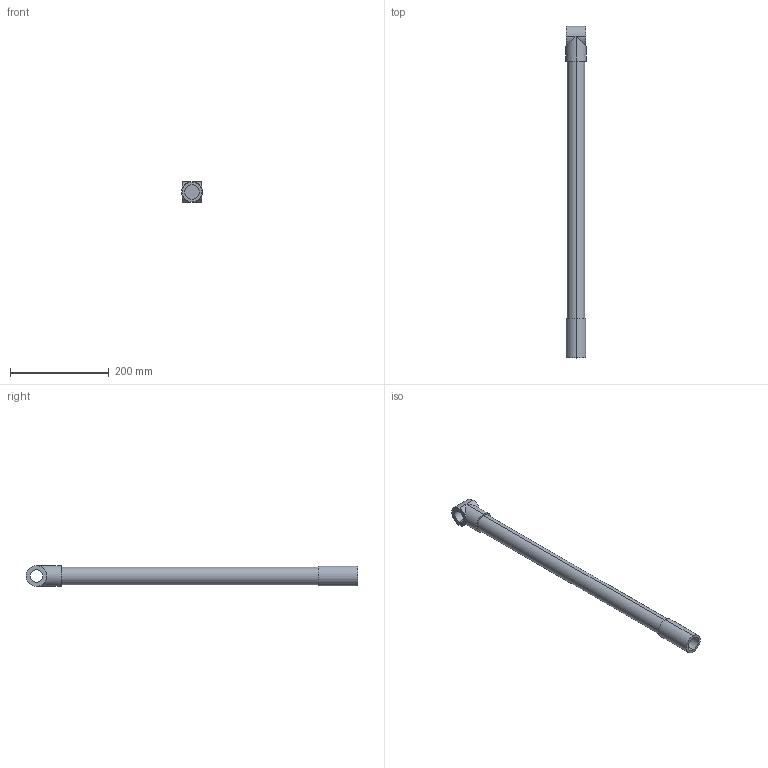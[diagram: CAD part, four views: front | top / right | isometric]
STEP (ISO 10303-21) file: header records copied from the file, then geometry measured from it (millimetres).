
FILE_DESCRIPTION (( 'STEP AP203' ), '1' );
FILE_NAME ('LEG.STEP', '2020-08-13T18:25:31', ( 'user' ), ( '' ), 'SwSTEP 2.0', 'SolidWorks 2018', '' );
FILE_SCHEMA (( 'CONFIG_CONTROL_DESIGN' ));
Length unit declared in the file: millimetre
Products named in the file (1): LEG
Bounding box: 42 x 671 x 42 mm (x, y, z)
Volume: 257073.4 mm3; surface area: 139065.8 mm2
Topology: 1 solids, 1 shells, 23 faces, 46 edges, 28 vertices
Faces by surface type: cylinder 17, plane 6
Entity records: 683 total; most frequent: CARTESIAN_POINT 116, DIRECTION 114, ORIENTED_EDGE 92, AXIS2_PLACEMENT_3D 50, EDGE_CURVE 46, EDGE_LOOP 28, VERTEX_POINT 28, CIRCLE 26
